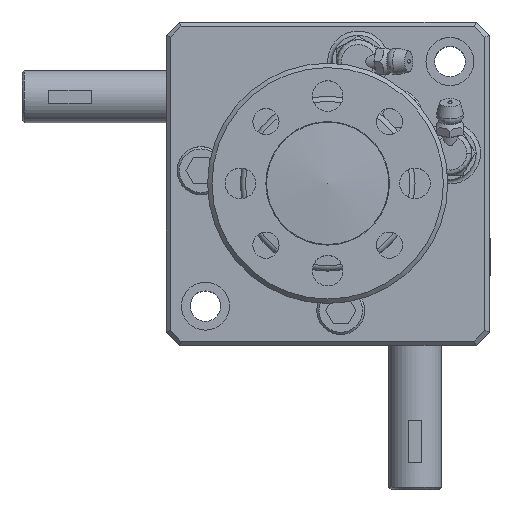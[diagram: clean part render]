
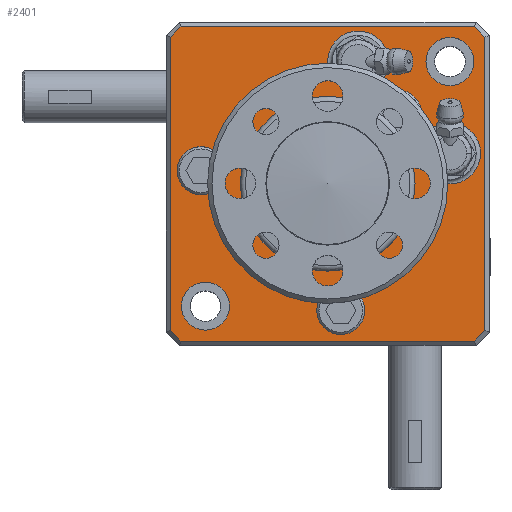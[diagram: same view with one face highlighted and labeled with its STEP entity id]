
A CAD part, top view. The second image highlights one B-rep face of the part: STEP entity #2401.
In plain terms, the highlighted planar face has unit normal (0, 0, 1).
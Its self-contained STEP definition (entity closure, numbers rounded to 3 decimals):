
#2401=ADVANCED_FACE('',(#6228,#6229,#6230,#6231,#6232,#6233,#6234,#6235,#6236),#6237,.T.);
#6228=FACE_OUTER_BOUND('',#12419,.T.);
#6229=FACE_BOUND('',#12420,.T.);
#6230=FACE_BOUND('',#12421,.T.);
#6231=FACE_BOUND('',#12422,.T.);
#6232=FACE_BOUND('',#12423,.T.);
#6233=FACE_BOUND('',#12424,.T.);
#6234=FACE_BOUND('',#12425,.T.);
#6235=FACE_BOUND('',#12426,.T.);
#6236=FACE_BOUND('',#12427,.T.);
#6237=PLANE('',#12428);
#12419=EDGE_LOOP('',(#21292,#21293,#21294,#21295,#21296,#21297,#21298,#21299));
#12420=EDGE_LOOP('',(#21300));
#12421=EDGE_LOOP('',(#21301));
#12422=EDGE_LOOP('',(#21302));
#12423=EDGE_LOOP('',(#21303));
#12424=EDGE_LOOP('',(#21304));
#12425=EDGE_LOOP('',(#21305));
#12426=EDGE_LOOP('',(#21306));
#12427=EDGE_LOOP('',(#21307));
#12428=AXIS2_PLACEMENT_3D('',#21308,#21309,#21310);
#21292=ORIENTED_EDGE('',*,*,#42074,.T.);
#21293=ORIENTED_EDGE('',*,*,#42070,.T.);
#21294=ORIENTED_EDGE('',*,*,#42066,.T.);
#21295=ORIENTED_EDGE('',*,*,#42072,.T.);
#21296=ORIENTED_EDGE('',*,*,#42014,.T.);
#21297=ORIENTED_EDGE('',*,*,#42075,.T.);
#21298=ORIENTED_EDGE('',*,*,#42076,.T.);
#21299=ORIENTED_EDGE('',*,*,#42077,.T.);
#21300=ORIENTED_EDGE('',*,*,#42078,.F.);
#21301=ORIENTED_EDGE('',*,*,#41975,.F.);
#21302=ORIENTED_EDGE('',*,*,#42079,.F.);
#21303=ORIENTED_EDGE('',*,*,#42080,.T.);
#21304=ORIENTED_EDGE('',*,*,#41981,.T.);
#21305=ORIENTED_EDGE('',*,*,#42081,.T.);
#21306=ORIENTED_EDGE('',*,*,#41927,.T.);
#21307=ORIENTED_EDGE('',*,*,#41897,.T.);
#21308=CARTESIAN_POINT('',(0.0,0.0,0.0));
#21309=DIRECTION('',(0.,0.,1.0));
#21310=DIRECTION('',(1.0,0.,0.));
#41897=EDGE_CURVE('',#50268,#50268,#50269,.T.);
#41927=EDGE_CURVE('',#50323,#50323,#50324,.T.);
#41975=EDGE_CURVE('',#50413,#50413,#50414,.T.);
#41981=EDGE_CURVE('',#50425,#50425,#50426,.T.);
#42014=EDGE_CURVE('',#50490,#50488,#50491,.T.);
#42066=EDGE_CURVE('',#50576,#50577,#50578,.T.);
#42070=EDGE_CURVE('',#50583,#50576,#50584,.T.);
#42072=EDGE_CURVE('',#50577,#50490,#50586,.T.);
#42074=EDGE_CURVE('',#50588,#50583,#50589,.T.);
#42075=EDGE_CURVE('',#50488,#50590,#50591,.T.);
#42076=EDGE_CURVE('',#50590,#50592,#50593,.T.);
#42077=EDGE_CURVE('',#50592,#50588,#50594,.T.);
#42078=EDGE_CURVE('',#50595,#50595,#50596,.T.);
#42079=EDGE_CURVE('',#50597,#50597,#50598,.T.);
#42080=EDGE_CURVE('',#50599,#50599,#50600,.T.);
#42081=EDGE_CURVE('',#50601,#50601,#50602,.T.);
#50268=VERTEX_POINT('',#64868);
#50269=CIRCLE('',#64869,5.5);
#50323=VERTEX_POINT('',#64959);
#50324=CIRCLE('',#64960,5.5);
#50413=VERTEX_POINT('',#65088);
#50414=CIRCLE('',#65089,7.0);
#50425=VERTEX_POINT('',#65102);
#50426=CIRCLE('',#65103,5.5);
#50488=VERTEX_POINT('',#65190);
#50490=VERTEX_POINT('',#65193);
#50491=LINE('',#65194,#65195);
#50576=VERTEX_POINT('',#65314);
#50577=VERTEX_POINT('',#65315);
#50578=LINE('',#65316,#65317);
#50583=VERTEX_POINT('',#65325);
#50584=LINE('',#65326,#65327);
#50586=LINE('',#65330,#65331);
#50588=VERTEX_POINT('',#65334);
#50589=LINE('',#65335,#65336);
#50590=VERTEX_POINT('',#65337);
#50591=LINE('',#65338,#65339);
#50592=VERTEX_POINT('',#65340);
#50593=LINE('',#65341,#65342);
#50594=LINE('',#65343,#65344);
#50595=VERTEX_POINT('',#65345);
#50596=CIRCLE('',#65346,7.0);
#50597=VERTEX_POINT('',#65347);
#50598=CIRCLE('',#65348,14.0);
#50599=VERTEX_POINT('',#65349);
#50600=CIRCLE('',#65350,5.5);
#50601=VERTEX_POINT('',#65351);
#50602=CIRCLE('',#65352,5.5);
#64868=CARTESIAN_POINT('',(8.5,-29.0,0.));
#64869=AXIS2_PLACEMENT_3D('',#83871,#83872,#83873);
#64959=CARTESIAN_POINT('',(-23.5,3.0,0.));
#64960=AXIS2_PLACEMENT_3D('',#83921,#83922,#83923);
#65088=CARTESIAN_POINT('',(14.0,28.0,0.));
#65089=AXIS2_PLACEMENT_3D('',#84000,#84001,#84002);
#65102=CARTESIAN_POINT('',(21.5,16.0,0.));
#65103=AXIS2_PLACEMENT_3D('',#84014,#84015,#84016);
#65190=CARTESIAN_POINT('',(-36.0,-33.586,0.));
#65193=CARTESIAN_POINT('',(-36.0,33.586,0.));
#65194=CARTESIAN_POINT('',(-36.0,0.0,0.));
#65195=VECTOR('',#84076,1.0);
#65314=CARTESIAN_POINT('',(33.586,36.0,0.));
#65315=CARTESIAN_POINT('',(-33.586,36.0,0.));
#65316=CARTESIAN_POINT('',(0.,36.0,0.));
#65317=VECTOR('',#84165,1.0);
#65325=CARTESIAN_POINT('',(36.0,33.586,0.));
#65326=CARTESIAN_POINT('',(34.793,34.793,0.));
#65327=VECTOR('',#84169,1.0);
#65330=CARTESIAN_POINT('',(-34.793,34.793,0.));
#65331=VECTOR('',#84171,1.0);
#65334=CARTESIAN_POINT('',(36.0,-33.586,0.));
#65335=CARTESIAN_POINT('',(36.0,0.,0.));
#65336=VECTOR('',#84173,1.0);
#65337=CARTESIAN_POINT('',(-33.586,-36.0,0.));
#65338=CARTESIAN_POINT('',(-34.793,-34.793,0.));
#65339=VECTOR('',#84174,1.0);
#65340=CARTESIAN_POINT('',(33.586,-36.0,0.));
#65341=CARTESIAN_POINT('',(0.,-36.0,0.));
#65342=VECTOR('',#84175,1.0);
#65343=CARTESIAN_POINT('',(34.793,-34.793,0.0));
#65344=VECTOR('',#84176,1.0);
#65345=CARTESIAN_POINT('',(35.0,7.0,0.));
#65346=AXIS2_PLACEMENT_3D('',#84177,#84178,#84179);
#65347=CARTESIAN_POINT('',(14.0,0.,0.));
#65348=AXIS2_PLACEMENT_3D('',#84180,#84181,#84182);
#65349=CARTESIAN_POINT('',(33.5,28.0,0.));
#65350=AXIS2_PLACEMENT_3D('',#84183,#84184,#84185);
#65351=CARTESIAN_POINT('',(-22.5,-28.0,0.));
#65352=AXIS2_PLACEMENT_3D('',#84186,#84187,#84188);
#83871=CARTESIAN_POINT('',(3.0,-29.0,0.));
#83872=DIRECTION('',(0.,0.,-1.0));
#83873=DIRECTION('',(1.0,0.,0.));
#83921=CARTESIAN_POINT('',(-29.0,3.0,0.));
#83922=DIRECTION('',(0.,0.,-1.0));
#83923=DIRECTION('',(1.0,0.,0.));
#84000=CARTESIAN_POINT('',(7.0,28.0,0.));
#84001=DIRECTION('',(0.,0.,1.0));
#84002=DIRECTION('',(1.0,0.,0.));
#84014=CARTESIAN_POINT('',(16.0,16.0,0.));
#84015=DIRECTION('',(0.,0.,-1.0));
#84016=DIRECTION('',(1.0,0.,0.));
#84076=DIRECTION('',(0.0,-1.0,0.));
#84165=DIRECTION('',(-1.0,0.0,0.));
#84169=DIRECTION('',(-0.707,0.707,0.));
#84171=DIRECTION('',(-0.707,-0.707,0.));
#84173=DIRECTION('',(0.0,1.0,0.));
#84174=DIRECTION('',(0.707,-0.707,0.));
#84175=DIRECTION('',(1.0,0.0,0.));
#84176=DIRECTION('',(0.707,0.707,0.));
#84177=CARTESIAN_POINT('',(28.0,7.0,0.));
#84178=DIRECTION('',(0.,0.,1.0));
#84179=DIRECTION('',(1.0,0.,0.));
#84180=CARTESIAN_POINT('',(0.0,0.0,0.0));
#84181=DIRECTION('',(0.,0.,1.0));
#84182=DIRECTION('',(1.0,0.,0.));
#84183=CARTESIAN_POINT('',(28.0,28.0,0.));
#84184=DIRECTION('',(0.,0.,-1.0));
#84185=DIRECTION('',(1.0,0.,0.));
#84186=CARTESIAN_POINT('',(-28.0,-28.0,0.));
#84187=DIRECTION('',(0.,0.,-1.0));
#84188=DIRECTION('',(1.0,0.,0.));
